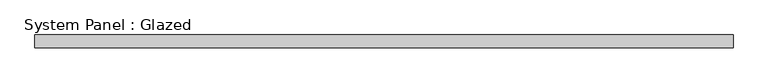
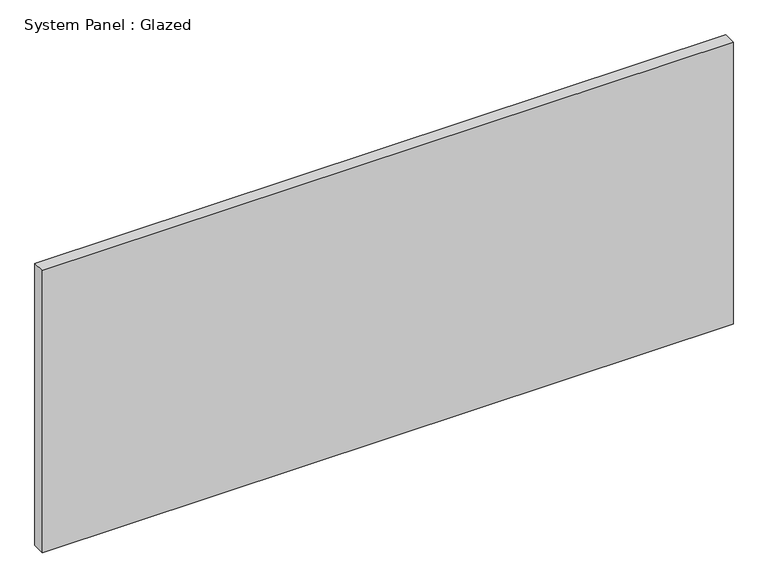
"""IFC4 building model written with IfcOpenShell, lengths in millimetres: plate geometry, System Panel : Glazed."""

from ifc_helpers import new_model, si_unit, origin, origin_with_axes, place, context, project, spatial, polyline, outline, extrude, source, transform, mapped, element, save


def system_panel_glazed_1be526e0(model_context):
    return source(origin(), model_context, "Body", "SweptSolid", [
        extrude(outline(polyline([(682.9166666, 24.5), (-682.9166666, 24.5), (-682.9166666, 49.5), (682.9166666, 49.5), (682.9166666, 24.5)])), origin_with_axes(), (0.0, 0.0, 1.0), 590.0),
    ])


if __name__ == "__main__":
    model = new_model("IFC4")
    model_context = context("Model", 3, world=origin())
    ifc_project = project(units=[si_unit("LENGTHUNIT", "METRE", prefix="MILLI")], contexts=[model_context])
    site = spatial("IfcSite", under=ifc_project)
    building = spatial("IfcBuilding", under=site)
    placement = place(None, origin())
    system_panel_glazed_shape = system_panel_glazed_1be526e0(model_context)
    element("IfcPlate", 1, ObjectType="System Panel : Glazed", at=placement, inside=building, context=model_context, shape_type="MappedRepresentation", body=[
        mapped(system_panel_glazed_shape, transform((0.0, 0.0, 0.0), x_axis=(1.0, 0.0, 0.0), y_axis=(0.0, 1.0, 0.0), z_axis=(0.0, 0.0, 1.0))),
    ])
    save(model, "model.ifc")
